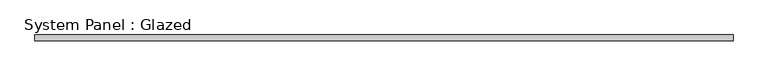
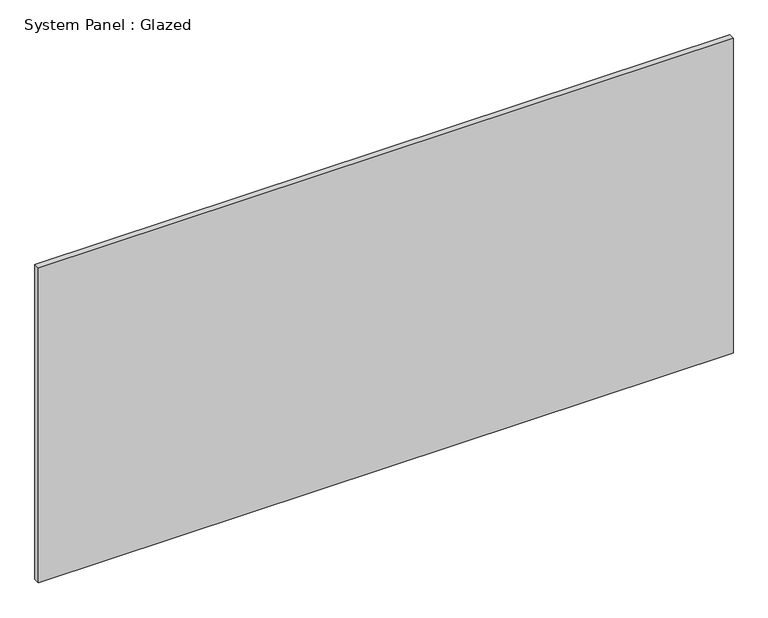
"""IFC4 building model written with IfcOpenShell, lengths in millimetres: plate geometry, System Panel : Glazed."""

from ifc_helpers import new_model, si_unit, origin, origin_with_axes, place, context, project, spatial, polyline, outline, extrude, source, transform, mapped, element, save


def system_panel_glazed_2072535e(model_context):
    return source(origin(), model_context, "Body", "SweptSolid", [
        extrude(outline(polyline([(1476.3750001, 19.05), (-1476.3750001, 19.05), (-1476.3750001, 44.45), (1476.3750001, 44.45), (1476.3750001, 19.05)])), origin_with_axes(), (0.0, 0.0, 1.0), 1414.6654135),
    ])


if __name__ == "__main__":
    model = new_model("IFC4")
    model_context = context("Model", 3, world=origin())
    ifc_project = project(units=[si_unit("LENGTHUNIT", "METRE", prefix="MILLI")], contexts=[model_context])
    site = spatial("IfcSite", under=ifc_project)
    building = spatial("IfcBuilding", under=site)
    placement = place(None, origin())
    system_panel_glazed_shape = system_panel_glazed_2072535e(model_context)
    element("IfcPlate", 1, ObjectType="System Panel : Glazed", at=placement, inside=building, context=model_context, shape_type="MappedRepresentation", body=[
        mapped(system_panel_glazed_shape, transform((0.0, 0.0, 0.0), x_axis=(1.0, 0.0, 0.0), y_axis=(0.0, 1.0, 0.0), z_axis=(0.0, 0.0, 1.0))),
    ])
    save(model, "model.ifc")
